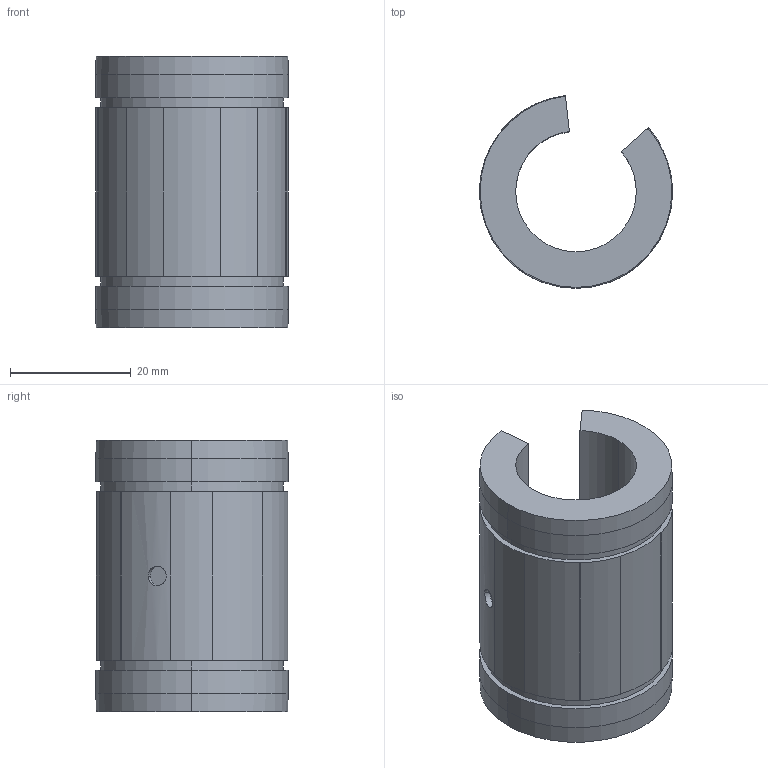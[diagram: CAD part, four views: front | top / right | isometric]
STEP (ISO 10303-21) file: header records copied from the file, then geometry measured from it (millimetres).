
FILE_DESCRIPTION((''),'2;1');
FILE_NAME('C:\Documents and Settings\ｿﾀﾀ蠑ｷ1\ｹﾙﾅﾁ ﾈｭｸ饅\ｺﾎﾇｰﾆﾄﾀﾏ\ﾁｦﾇｰ\LMES__UUOP\LMES20UUOP.stp','2005-06-15T14:07:35',('ｿﾀﾀ蠑ｷ1'),(''),'Autodesk Inventor 9','Autodesk Inventor 9','');
FILE_SCHEMA(('AUTOMOTIVE_DESIGN { 1 0 10303 214 1 1 1 1 }'));
Length unit declared in the file: millimetre
Products named in the file (1): LMES__OP
Bounding box: 32 x 31.9 x 45 mm (x, y, z)
Volume: 18279.8 mm3; surface area: 7848.9 mm2
Topology: 1 solids, 1 shells, 53 faces, 146 edges, 96 vertices
Faces by surface type: cylinder 28, plane 19, cone 6
Entity records: 1761 total; most frequent: CARTESIAN_POINT 330, DIRECTION 312, ORIENTED_EDGE 292, EDGE_CURVE 146, AXIS2_PLACEMENT_3D 114, VERTEX_POINT 96, VECTOR 84, LINE 84
